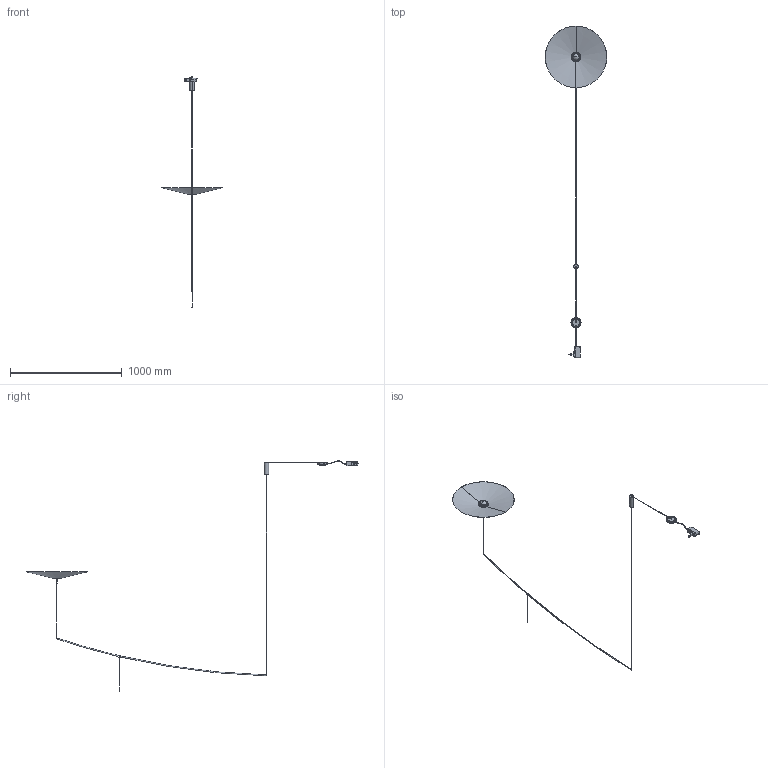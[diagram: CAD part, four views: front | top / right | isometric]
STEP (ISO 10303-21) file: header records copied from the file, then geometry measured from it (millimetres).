
FILE_DESCRIPTION((''),'2;1');
FILE_NAME('A07_TERRA_PATENT_ASM','2024-07-08T10:59:18',('BiscaroAndrea'),(''),'CREO PARAMETRIC BY PTC INC, 2023494','CREO PARAMETRIC BY PTC INC, 2023494','');
FILE_SCHEMA(('CONFIG_CONTROL_DESIGN'));
Length unit declared in the file: millimetre
Products named in the file (14): TUBO_PATENT; A0707005_TORNITO_PORTALENTE; A0707004_LENTE_60; A0707006_RIFLETTORE-HOLDER; A0707008_COPERCHIO-ATTACCHI; DIST_STEAB_5015-6-4; A0707010_TUB-SOSP-550; A0707002_CAPPELLO-D550; A0701007_D550_ASM; A0707075_BASE-DIMMER-TERRA; A0707076_COPERCHIO-DIMMER-TERRA; A0706003_DIMMER-TERRA_ASM; DRIVER_SPINA-36W-40V_UE; A07_TERRA_PATENT_ASM
Assembly tree (13 placements, depth 3):
  A07_TERRA_PATENT_ASM
    TUBO_PATENT
    A0701007_D550_ASM
      A0707005_TORNITO_PORTALENTE
      A0707004_LENTE_60
      A0707006_RIFLETTORE-HOLDER
      A0707008_COPERCHIO-ATTACCHI
      DIST_STEAB_5015-6-4
      A0707010_TUB-SOSP-550
      A0707002_CAPPELLO-D550
    A0706003_DIMMER-TERRA_ASM
      A0707075_BASE-DIMMER-TERRA
      A0707076_COPERCHIO-DIMMER-TERRA
    DRIVER_SPINA-36W-40V_UE
Bounding box: 550 x 2968 x 2057.39 mm (x, y, z)
Volume: 925639.7 mm3; surface area: 694763 mm2
Topology: 12 solids, 19 shells, 604 faces, 1577 edges, 1022 vertices
Faces by surface type: cylinder 253, plane 220, cone 66, bspline 36, torus 24, sphere 3, revolution 2
Entity records: 28258 total; most frequent: CARTESIAN_POINT 12915, DIRECTION 3230, ORIENTED_EDGE 3122, EDGE_CURVE 1575, AXIS2_PLACEMENT_3D 1288, VERTEX_POINT 1022, EDGE_LOOP 709, CIRCLE 683
